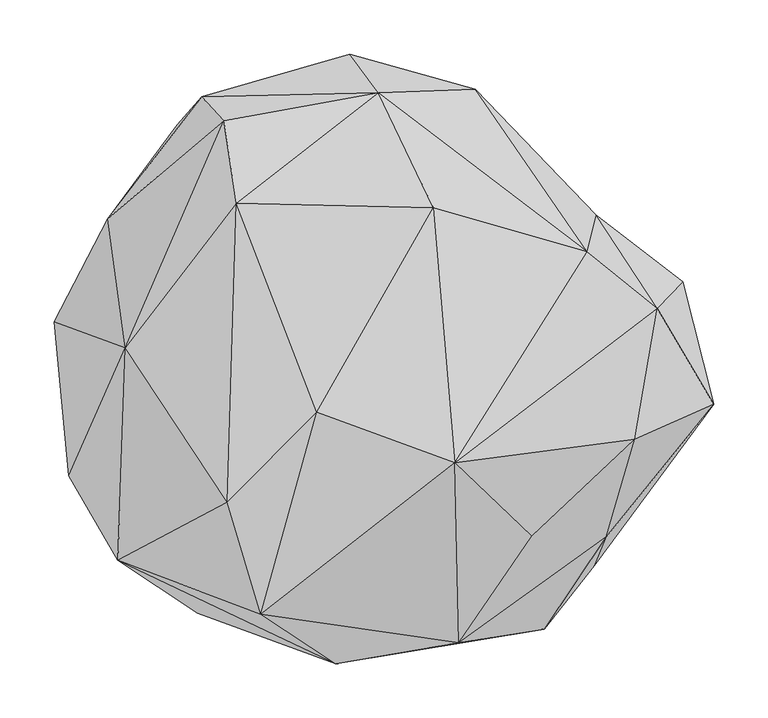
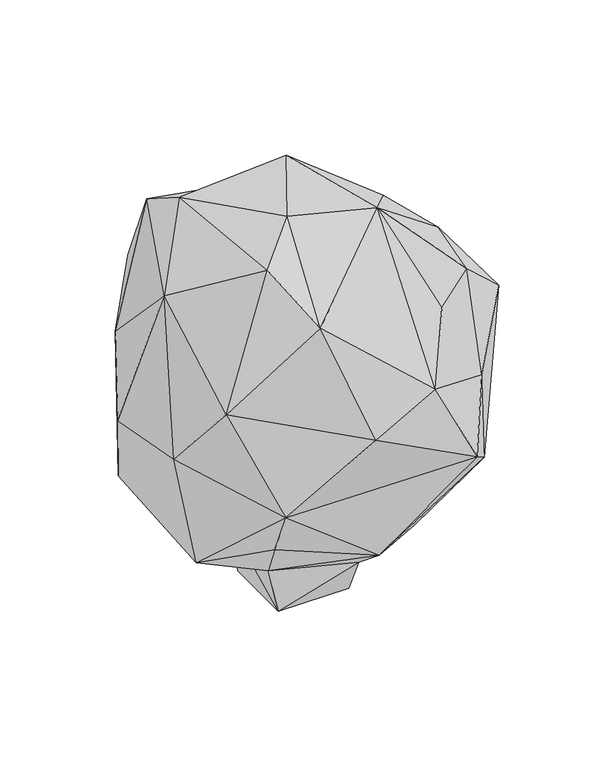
"""IFC4 building model written with IfcOpenShell, lengths in millimetres: geographic element geometry, Enscape AssetDefinition - Bush 135 Rose of Sharon : Enscape AssetDefinition - Bush 135 Rose of Sharon 4."""

from ifc_helpers import new_model, si_unit, origin, place, context, project, spatial, triangles, source, transform, mapped, element, save


def geographic_element_e4e10a39(model_context):
    return source(origin(), model_context, "Body", "Tessellation", [
        triangles([(71.4495314, -56.8249472, -13.8107145), (76.4354053, -77.8360284, 43.7237892), (-49.613714, -56.8249472, -13.8107145), (-49.613714, 64.2382983, -13.8107145), (-226.1436637, 114.0780205, 190.5150427), (-44.4023679, 90.4020492, 46.2859965), (10.5758988, 168.0604358, 93.841138), (-140.5856866, 193.7194438, 224.7854073), (-71.1941782, -65.0179336, 72.5182026), (-139.0503152, -200.7763713, 216.5098404), (-174.6479516, -29.3404329, 101.7749651), (26.773879, -225.4471401, 163.667281), (-263.7042345, -116.832013, 373.8710383), (-144.5197306, -243.9296966, 303.1913409), (-211.5804538, 1.5918723, 581.5011337), (-227.5877435, 120.8355931, 449.8055022), (-277.4562657, 25.850809, 362.1335644), (-218.7726929, -194.9592482, 486.1360608), (-117.4263808, -141.1827704, 680.9633039), (-109.0954122, 135.2950212, 643.397283), (22.1449533, 237.6779343, 554.8772138), (-140.8394048, 233.9476387, 488.9292043), (-120.7492157, 211.4120411, 598.8666435), (-3.803108, 273.2723096, 411.7027044), (215.6253377, 90.4091163, 560.0201411), (93.0500979, -104.8815705, 698.743396), (72.9843533, 131.115398, 658.0631756), (-34.5979586, -57.991959, 699.9999327), (164.1855997, -172.673599, 533.3195907), (-86.2006977, -244.6071988, 627.6328382), (96.7863797, -271.119207, 468.7156488), (111.9835898, 240.6470663, 445.6774838), (332.7545437, -50.5009282, 441.2740462), (303.9747778, 62.6752169, 412.9479773), (280.5465749, 38.2809937, 510.7182813), (259.3600047, -82.8990551, 516.5951391), (-16.8825394, -290.2635326, 427.7219665), (175.8204091, -258.4255232, 310.4406077), (233.1093178, -173.0854198, 388.1984342), (228.4276995, 0.0570466, 196.7798492), (223.9313351, 124.1747243, 454.8250723), (159.9836941, 141.9716394, 151.6663148), (221.9786927, -199.9858672, 257.6627246), (267.7529335, 8.6406608, 130.1184385), (151.200155, -114.7691029, 108.0631351), (64.011736, 204.9625257, 150.8573344), (71.4495314, 64.2382983, -13.8107145), (-163.7037068, 208.0984534, 404.899486)], [[45, 12, 2], [22, 48, 16], [5, 16, 48], [48, 8, 5], [22, 24, 48], [24, 8, 48], [8, 24, 7], [7, 24, 46], [46, 24, 32], [47, 7, 46], [42, 32, 41], [42, 46, 32], [46, 42, 47], [44, 45, 2], [47, 42, 44], [44, 2, 47], [38, 12, 43], [45, 43, 12], [43, 45, 44], [44, 42, 40], [44, 40, 43], [40, 42, 41], [40, 41, 34], [33, 40, 34], [40, 33, 43], [39, 38, 43], [39, 43, 33], [38, 39, 31], [31, 30, 37], [38, 31, 37], [39, 29, 31], [39, 33, 36], [36, 29, 39], [36, 33, 35], [34, 41, 35], [33, 34, 35], [35, 41, 25], [32, 25, 41], [29, 26, 31], [26, 35, 25], [26, 36, 35], [30, 31, 26], [29, 36, 26], [26, 28, 30], [27, 28, 26], [25, 27, 26], [25, 21, 27], [21, 32, 24], [21, 24, 22], [32, 21, 25], [22, 16, 23], [22, 23, 21], [20, 21, 23], [27, 21, 20], [27, 20, 28], [30, 28, 19], [28, 20, 19], [30, 19, 18], [37, 30, 18], [15, 20, 23], [23, 16, 15], [15, 19, 20], [18, 19, 15], [17, 16, 5], [15, 16, 17], [18, 15, 13], [15, 17, 13], [13, 14, 18], [38, 37, 14], [37, 18, 14], [12, 38, 14], [13, 11, 14], [17, 11, 13], [5, 11, 17], [14, 10, 12], [14, 11, 10], [9, 10, 11], [2, 12, 9], [10, 9, 12], [9, 11, 6], [5, 8, 6], [6, 8, 7], [47, 6, 7], [5, 6, 11], [6, 47, 4], [3, 2, 9], [9, 6, 3], [4, 3, 6], [3, 4, 47], [1, 3, 47], [47, 2, 1], [1, 2, 3]]),
    ])


if __name__ == "__main__":
    model = new_model("IFC4")
    model_context = context("Model", 3, world=origin())
    ifc_project = project(units=[si_unit("LENGTHUNIT", "METRE", prefix="MILLI")], contexts=[model_context])
    site = spatial("IfcSite", under=ifc_project)
    building = spatial("IfcBuilding", under=site)
    placement = place(None, origin())
    geographic_element_shape = geographic_element_e4e10a39(model_context)
    element("IfcGeographicElement", 1, ObjectType="Enscape AssetDefinition - Bush 135 Rose of Sharon : Enscape AssetDefinition - Bush 135 Rose of Sharon 4", at=placement, inside=building, context=model_context, shape_type="MappedRepresentation", body=[
        mapped(geographic_element_shape, transform((0.0, 0.0, 0.0), x_axis=(1.0, 0.0, 0.0), y_axis=(0.0, 1.0, 0.0), z_axis=(0.0, 0.0, 1.0))),
    ])
    save(model, "model.ifc")
